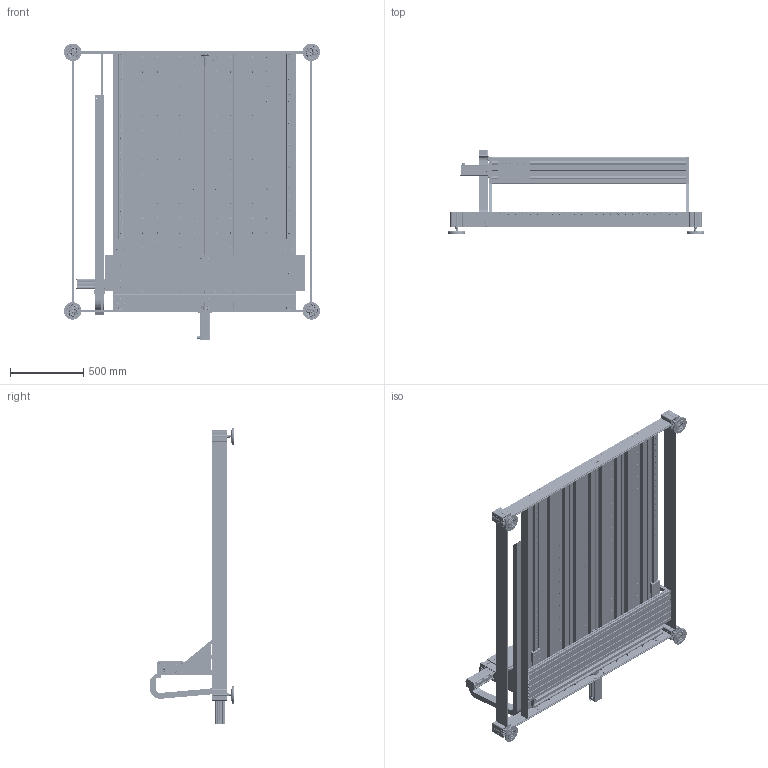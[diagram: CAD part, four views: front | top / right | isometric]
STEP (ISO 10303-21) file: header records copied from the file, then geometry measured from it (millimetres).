
FILE_DESCRIPTION (( 'STEP AP203' ), '1' );
FILE_NAME ('STEP_-_X-Y Flachbetteinheit FB2 - ArtNr 246203 2130M.step', '2015-04-22T15:07:08', ( '' ), ( '' ), 'SwSTEP 2.0', 'SolidWorks 2014', '' );
FILE_SCHEMA (( 'CONFIG_CONTROL_DESIGN' ));
Length unit declared in the file: millimetre
Products named in the file (6): Tisch Baugruppe_1250x1750; TE0060 - Schlittenplatte Vorschub 175mm; TE0179 - F黨rungsschlitten_F乭rungsschlitten f乺 KG-Mutter Typ25; X-Y-Achse f黵 Verfahrweg 1030; STEP_-_X-Y Flachbetteinheit FB2 - ArtNr 246203 2130M; Tisch 1250x1750
Assembly tree (6 placements, depth 3):
  STEP_-_X-Y Flachbetteinheit FB2 - ArtNr 246203 2130M
    Tisch Baugruppe_1250x1750
      Tisch 1250x1750
    TE0060 - Schlittenplatte Vorschub 175mm
    TE0179 - F黨rungsschlitten_F乭rungsschlitten f乺 KG-Mutter Typ25  x2
    X-Y-Achse f黵 Verfahrweg 1030
Bounding box: 1750 x 574.4 x 2028.3 mm (x, y, z)
Volume: 52966550.3 mm3; surface area: 36074922.1 mm2
Topology: 549 solids, 549 shells, 16720 faces, 42225 edges, 27184 vertices
Faces by surface type: plane 9728, cylinder 4304, cone 1223, torus 887, bspline 426, sphere 152
Full cylindrical faces by diameter (mm): 1.5 x6, 2 x2, 2.33 x2, 2.4 x2, 2.5 x24, 3 x16, 3.2 x10, 4 x18, 4.2 x10, 4.5 x16, 4.6 x2, 4.8 x4, 5 x60, 5.2 x40, 5.5 x12, 6 x362, 6.1 x12, 6.35 x2, 6.4 x10, 6.5 x88, 6.6 x68, 7 x279, 7.2 x2, 7.5 x30, 8 x12, 8.5 x16, 9 x1, 9.2 x2, 9.8 x2, 10 x311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
Entity records: 535502 total; most frequent: CARTESIAN_POINT 163226, DIRECTION 73836, ORIENTED_EDGE 73002, EDGE_CURVE 36501, AXIS2_PLACEMENT_3D 26203, VERTEX_POINT 25557, EDGE_LOOP 22834, VECTOR 21430
